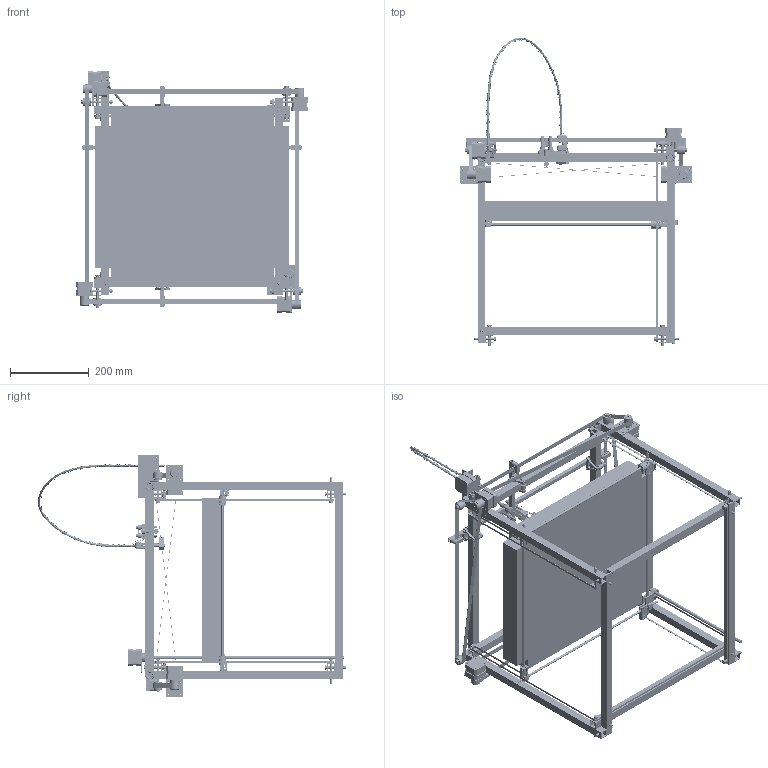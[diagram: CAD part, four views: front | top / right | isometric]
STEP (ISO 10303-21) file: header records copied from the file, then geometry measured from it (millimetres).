
FILE_DESCRIPTION (( 'STEP AP203' ), '1' );
FILE_NAME ('QR-B2-STEP-AP203.STEP', '2014-04-05T09:41:17', ( '' ), ( '' ), 'SwSTEP 2.0', 'SolidWorks 2014', '' );
FILE_SCHEMA (( 'CONFIG_CONTROL_DESIGN' ));
Length unit declared in the file: millimetre
Products named in the file (61): QR-026; QR-310; QR-000; QR-304; Nut-M8-Table-20140321; din_en_24014_m6x90_M6x50; screw_din_912-m5x0_8-50-8_8; Teil11^QR-B2; QR-027; QR-015; QR-001; din_en_24014_m6x90_M6x75; QR-022; QR-300; QR-006; QR-B2-STEP-AP203; QR-FahrradKettenglied; QR-000_einfach; QR-305; QR-312; din_en_24014_m6x90_M6x60; QR-005; QR-016; QR-028; QR-001_einfach; QR-013; QR-023; QR-301; QR-008; QR-017; Teil1^QR-Pusher; QR-002; QR-011; QR-313; QR-012-Z; QR-302; QR-309; QR-Pusher; QR-003; QR-020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
Assembly tree (140 placements, depth 4):
  QR-B2-STEP-AP203
    QR-014  x12
    QR-305  x5
      QR-304
        QR-010
      din_en_24014_m6x90_M6x75
    QR-013
    QR-011
    QR-308  x2
      QR-020
      QR-310
        QR-018
        QR-019
      QR-309
        QR-015
        QR-016  x3
        QR-017  x3
    QR-009
    QR-302
      QR-007
      screw_din_912-m5x0_8-50-8_8  x4
      QR-006  x8
      QR-005  x4
      QR-008  x8
    QR-307  x3
      QR-011
      QR-009
      QR-013
    QR-303  x3
      QR-304
        QR-010
      din_en_24014_m6x90_M6x80
    din_en_24014_m6x90_M6x50  x2
    QR-300  x7
      din_en_24014_m6x90_M6x50
    QR-301  x6
      din_en_24014_m6x90_M6x60
    QR-306
      QR-011
      QR-009
      QR-012-Z
    QR-004
    QR-311
      QR-021  x4
      Nut-M8-Table-20140321
      QR-312  x3
        QR-022
      QR-313  x4
        QR-023
      QR-024  x2
      Teil5^QR-311
    QR-000
    QR-001
    QR-000_einfach
    QR-001_einfach
    QR-002  x2
    QR-003
    QR-Pusher
      QR-011
      QR-BiC-FlintWheel
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Bounding box: 590 x 782.79 x 613.98 mm (x, y, z)
Volume: 11546684.5 mm3; surface area: 2008926.9 mm2
Topology: 170 solids, 170 shells, 4394 faces, 10717 edges, 6866 vertices
Faces by surface type: plane 1852, cylinder 1732, cone 560, torus 218, bspline 32
Entity records: 63846 total; most frequent: CARTESIAN_POINT 19662, DIRECTION 7789, ORIENTED_EDGE 7132, EDGE_CURVE 3566, AXIS2_PLACEMENT_3D 2840, VERTEX_POINT 2323, VECTOR 2109, LINE 2109
